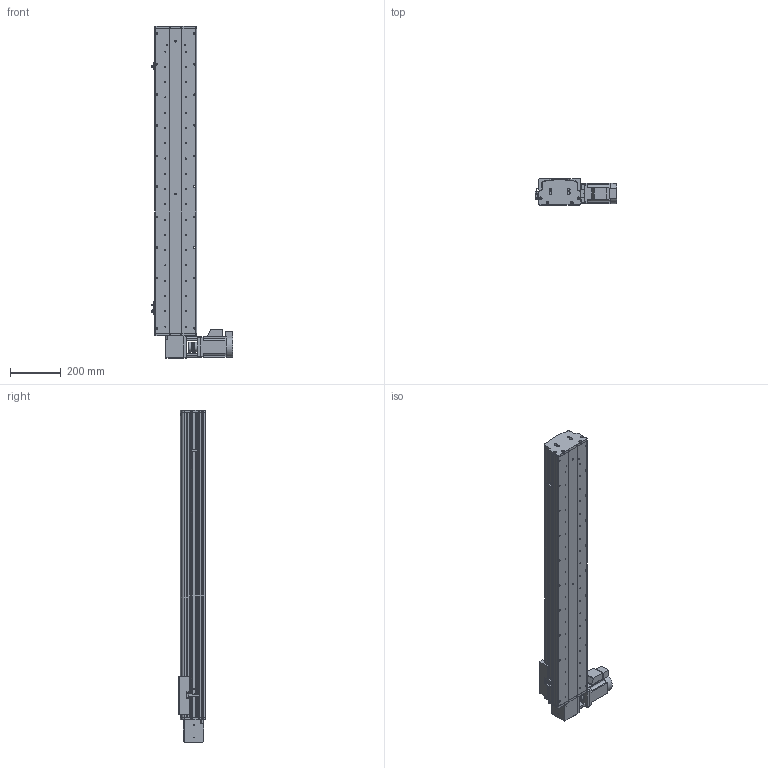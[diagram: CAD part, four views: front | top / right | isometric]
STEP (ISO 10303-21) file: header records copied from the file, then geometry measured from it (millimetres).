
FILE_DESCRIPTION (( 'STEP AP214' ), '1' );
FILE_NAME ('KSD165B-S950-MRT-CM .STEP', '2017-08-14T05:58:12', ( '微软用户' ), ( '微软中国' ), 'SwSTEP 2.0', 'SolidWorks 2014', '' );
FILE_SCHEMA (( 'AUTOMOTIVE_DESIGN' ));
Length unit declared in the file: millimetre
Products named in the file (16): KSD165B-S950-MRT-CM ; KSD165模组-同步带防尘盖1-950行程-最新版; KSD165模组同步带底板-950行程-最新; 拸秶雄ん750W侜督萇儂; 165宽安装板同步带带电机座750W; 165宽马达安装板同步带右; C39ㄜ1419WP; U倰嫖萇假蚾璃; U倰嫖萇EEㄜSX672; 覜茼え68遵圉猾敕; KSD165模组-同步带-防撞垫2; KSD165模组同步带-防撞垫1; KSD165耀郪-ヶ傷啣1-肮祭湍; KSD165模组-后端板1-同步带; 130宽马达安装板1-带电机座750W（1）; KSD165模组-同步带滑动座-最新版
Assembly tree (19 placements, depth 2):
  KSD165B-S950-MRT-CM 
    KSD165模组-同步带滑动座-最新版
    130宽马达安装板1-带电机座750W（1）
    KSD165模组-后端板1-同步带
    KSD165耀郪-ヶ傷啣1-肮祭湍
    KSD165模组同步带-防撞垫1
    KSD165模组-同步带-防撞垫2
    覜茼え68遵圉猾敕
    U倰嫖萇EEㄜSX672  x3
    U倰嫖萇假蚾璃  x3
    C39ㄜ1419WP
    165宽马达安装板同步带右
    165宽安装板同步带带电机座750W
    拸秶雄ん750W侜督萇儂
    KSD165模组同步带底板-950行程-最新
    KSD165模组-同步带防尘盖1-950行程-最新版
Bounding box: 321.2 x 104 x 1304 mm (x, y, z)
Volume: 7663159.7 mm3; surface area: 1726425.3 mm2
Topology: 20 solids, 20 shells, 1500 faces, 4176 edges, 2705 vertices
Faces by surface type: cylinder 827, plane 579, cone 94
Entity records: 47855 total; most frequent: CARTESIAN_POINT 10013, DIRECTION 7434, ORIENTED_EDGE 7004, EDGE_CURVE 3502, AXIS2_PLACEMENT_3D 2830, VERTEX_POINT 2297, LINE 1774, VECTOR 1774
